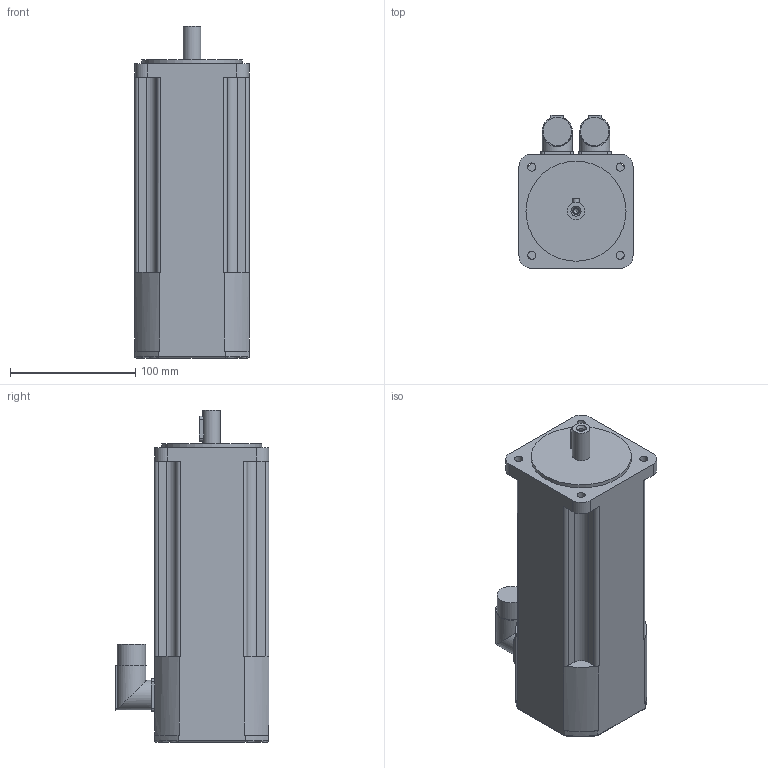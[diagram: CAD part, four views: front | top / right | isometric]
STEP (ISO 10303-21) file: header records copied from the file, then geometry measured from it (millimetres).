
FILE_DESCRIPTION(/* description */ (''),/* implementation_level */ '2;1');
FILE_NAME(/* name */ '\\Lafnas01\disegni\Archivi Lafert\3D\CAD 3D\MODELLI\Assiemi clienti\Serad\Modelli 3D Serad\B56I\Encoder\Enc Without Brake\B5602Ixx6ARx2033.ipt.stp',/* time_stamp */ '2015-09-07T10:49:55+02:00',/* author */ ('Pastrello Ylenia'),/* organization */ (''),/* preprocessor_version */ 'ST-DEVELOPER v15.6',/* originating_system */ 'Autodesk Inventor 2015',/* authorisation */ '');
FILE_SCHEMA (('AUTOMOTIVE_DESIGN { 1 0 10303 214 3 1 1 }'));
Length unit declared in the file: millimetre
Products named in the file (1): B5602Ixx6ARx2033
Bounding box: 91.3 x 122.8 x 265.5 mm (x, y, z)
Volume: 1806295.6 mm3; surface area: 108849.2 mm2
Topology: 1 solids, 1 shells, 133 faces, 339 edges, 215 vertices
Faces by surface type: plane 74, cylinder 52, torus 4, cone 3
Full cylindrical faces by diameter (mm): 4.134 x1, 5.3 x1, 6.5 x4, 14 x1, 22.7 x2, 24 x2, 80 x1
Entity records: 4088 total; most frequent: CARTESIAN_POINT 804, DIRECTION 726, ORIENTED_EDGE 640, EDGE_CURVE 320, AXIS2_PLACEMENT_3D 282, VERTEX_POINT 212, EDGE_LOOP 164, LINE 162
